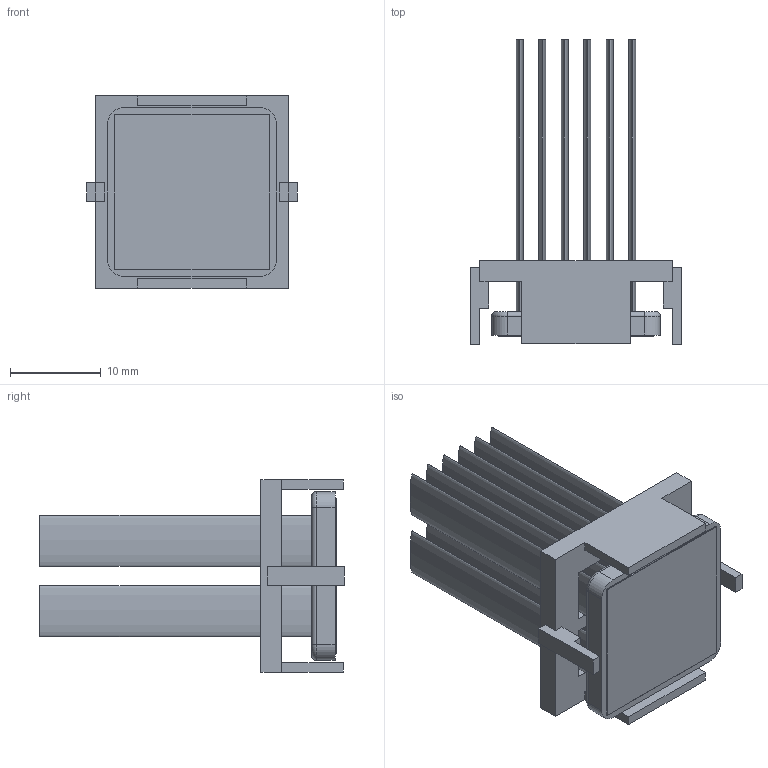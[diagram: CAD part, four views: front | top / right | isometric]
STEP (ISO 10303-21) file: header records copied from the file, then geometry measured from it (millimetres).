
FILE_DESCRIPTION (( 'STEP AP214' ), '1' );
FILE_NAME ('INM19001-33W-2.6O.STEP', '2023-03-02T18:22:30', ( '' ), ( '' ), 'SwSTEP 2.0', 'SolidWorks 2020', '' );
FILE_SCHEMA (( 'AUTOMOTIVE_DESIGN' ));
Length unit declared in the file: millimetre
Products named in the file (1): INM19001-33W-2.6O
Bounding box: 23.2 x 33.6 x 21.2 mm (x, y, z)
Volume: 2985.9 mm3; surface area: 7023.4 mm2
Topology: 3 solids, 3 shells, 106 faces, 256 edges, 168 vertices
Faces by surface type: plane 70, bspline 24, cylinder 8, torus 4
Entity records: 4330 total; most frequent: CARTESIAN_POINT 843, ORIENTED_EDGE 512, DIRECTION 394, EDGE_CURVE 256, VECTOR 188, LINE 188, VERTEX_POINT 168, EDGE_LOOP 120
